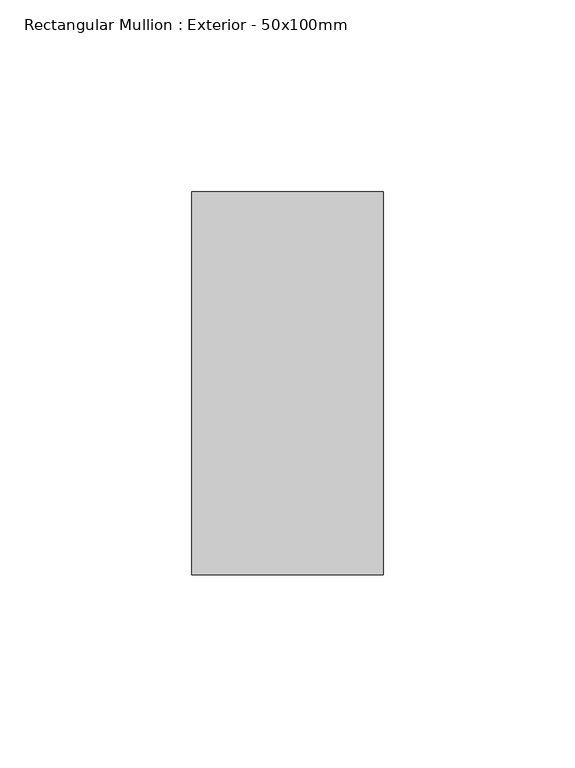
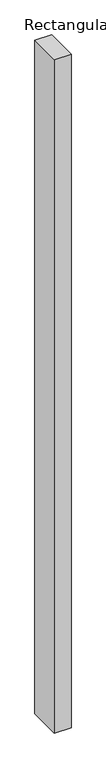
"""IFC4 building model written with IfcOpenShell, lengths in millimetres: member geometry, Rectangular Mullion : Exterior - 50x100mm."""

from ifc_helpers import new_model, si_unit, frame, origin, place, context, project, spatial, polyline, outline, extrude, source, transform, mapped, element, save


def rectangular_mullion_exterior_50x100mm_229f60ba(model_context):
    return source(origin(), model_context, "Body", "SweptSolid", [
        extrude(outline(polyline([(25.0, 100.0), (25.0, 0.0), (-25.0, 0.0), (-25.0, 100.0), (25.0, 100.0)])), frame((0.0, 0.0, -2125.0), z_axis=(0.0, 0.0, 1.0), x_axis=(1.0, 0.0, 0.0)), (0.0, 0.0, 1.0), 2125.0),
    ])


if __name__ == "__main__":
    model = new_model("IFC4")
    model_context = context("Model", 3, world=origin())
    ifc_project = project(units=[si_unit("LENGTHUNIT", "METRE", prefix="MILLI")], contexts=[model_context])
    site = spatial("IfcSite", under=ifc_project)
    building = spatial("IfcBuilding", under=site)
    placement = place(None, origin())
    rectangular_mullion_exterior_50x100mm_shape = rectangular_mullion_exterior_50x100mm_229f60ba(model_context)
    element("IfcMember", 1, ObjectType="Rectangular Mullion : Exterior - 50x100mm", at=placement, inside=building, context=model_context, shape_type="MappedRepresentation", body=[
        mapped(rectangular_mullion_exterior_50x100mm_shape, transform((0.0, 0.0, 0.0), x_axis=(1.0, 0.0, 0.0), y_axis=(0.0, 1.0, 0.0), z_axis=(0.0, 0.0, 1.0))),
    ])
    save(model, "model.ifc")
